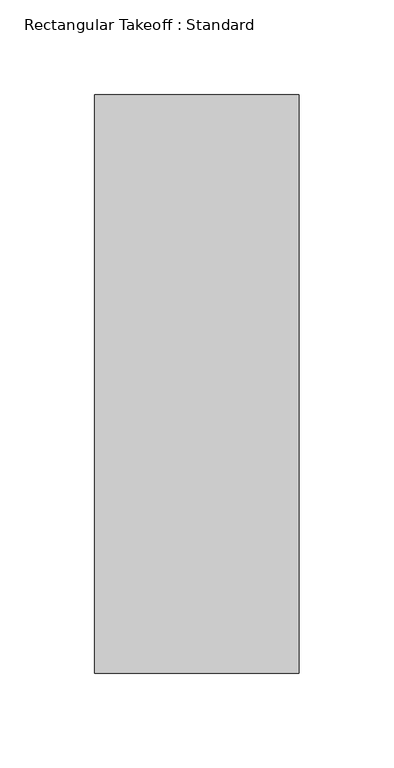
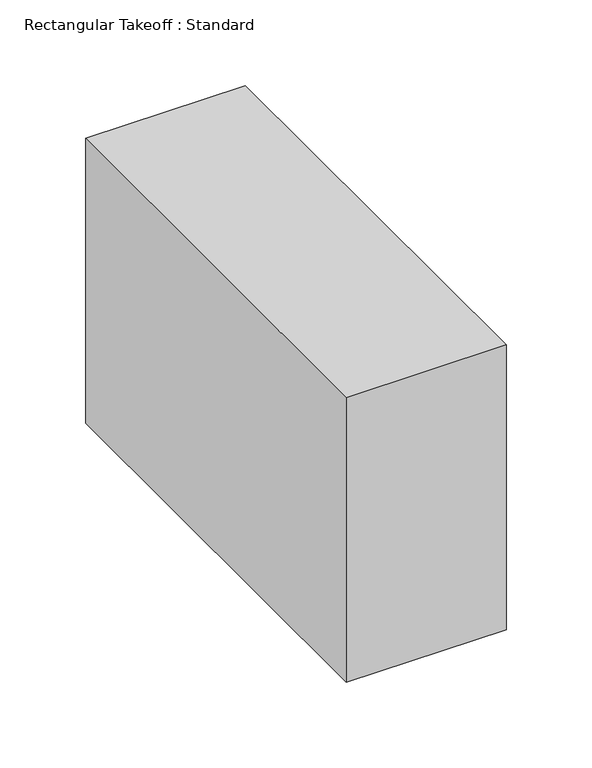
"""IFC4 building model written with IfcOpenShell, lengths in millimetres: duct fitting geometry, Rectangular Takeoff : Standard."""

from ifc_helpers import new_model, si_unit, frame, origin, place, context, project, spatial, polyline, outline, extrude, source, transform, mapped, element, save


def rectangular_takeoff_standard_78a7ba75(model_context):
    return source(origin(), model_context, "Body", "SweptSolid", [
        extrude(outline(polyline([(-6.096, 152.4), (101.6, 152.4), (101.6, -152.4), (-6.096, -152.4), (-6.096, 152.4)])), frame((0.0, 0.0, -101.6), z_axis=(0.0, 0.0, 1.0), x_axis=(1.0, 0.0, 0.0)), (0.0, 0.0, 1.0), 203.2),
    ])


if __name__ == "__main__":
    model = new_model("IFC4")
    model_context = context("Model", 3, world=origin())
    ifc_project = project(units=[si_unit("LENGTHUNIT", "METRE", prefix="MILLI")], contexts=[model_context])
    site = spatial("IfcSite", under=ifc_project)
    building = spatial("IfcBuilding", under=site)
    placement = place(None, origin())
    rectangular_takeoff_standard_shape = rectangular_takeoff_standard_78a7ba75(model_context)
    element("IfcDuctFitting", 1, ObjectType="Rectangular Takeoff : Standard", at=placement, inside=building, context=model_context, shape_type="MappedRepresentation", body=[
        mapped(rectangular_takeoff_standard_shape, transform((0.0, 0.0, 0.0), x_axis=(1.0, 0.0, 0.0), y_axis=(0.0, 1.0, 0.0), z_axis=(0.0, 0.0, 1.0))),
    ])
    save(model, "model.ifc")
